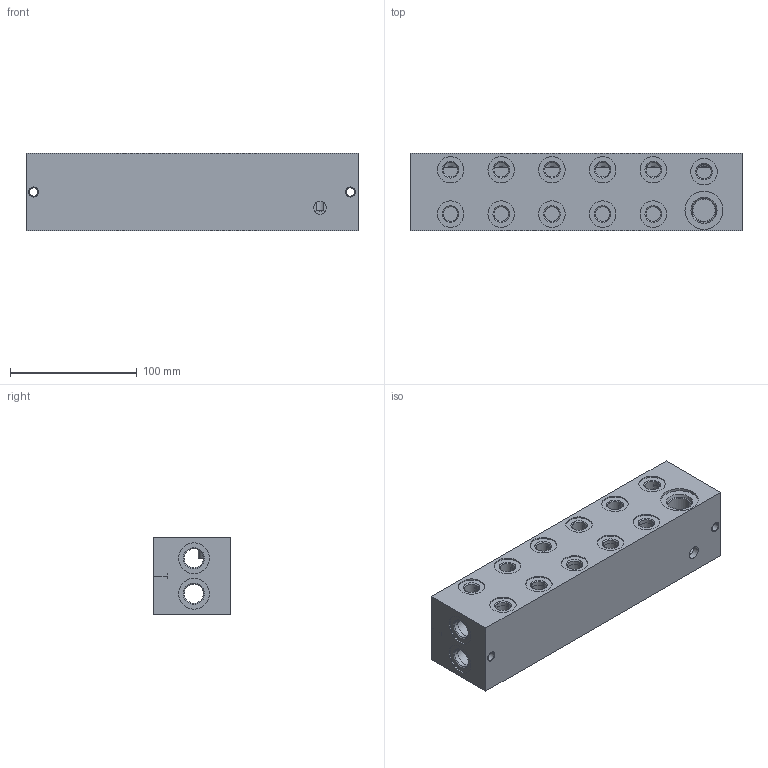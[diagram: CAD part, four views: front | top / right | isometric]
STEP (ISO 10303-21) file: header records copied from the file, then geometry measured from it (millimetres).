
FILE_DESCRIPTION((''),'2;1');
FILE_NAME('760_6950','2015-11-27T',('Ahcz.brigadnik05'),(''),'PRO/ENGINEER BY PARAMETRIC TECHNOLOGY CORPORATION, 2015110','PRO/ENGINEER BY PARAMETRIC TECHNOLOGY CORPORATION, 2015110','');
FILE_SCHEMA(('AUTOMOTIVE_DESIGN { 1 0 10303 214 1 1 1 1 }'));
Length unit declared in the file: millimetre
Products named in the file (1): 760_6950
Bounding box: 262 x 61 x 61 mm (x, y, z)
Volume: 365571.6 mm3; surface area: 146180.7 mm2
Topology: 1 solids, 43 shells, 384 faces, 1919 edges, 1802 vertices
Faces by surface type: cylinder 256, plane 76, cone 52
Entity records: 21128 total; most frequent: CARTESIAN_POINT 4316, DIRECTION 3200, ORIENTED_EDGE 1978, VECTOR 1218, LINE 1218, EDGE_CURVE 1073, AXIS2_PLACEMENT_3D 991, TRIMMED_CURVE 841
